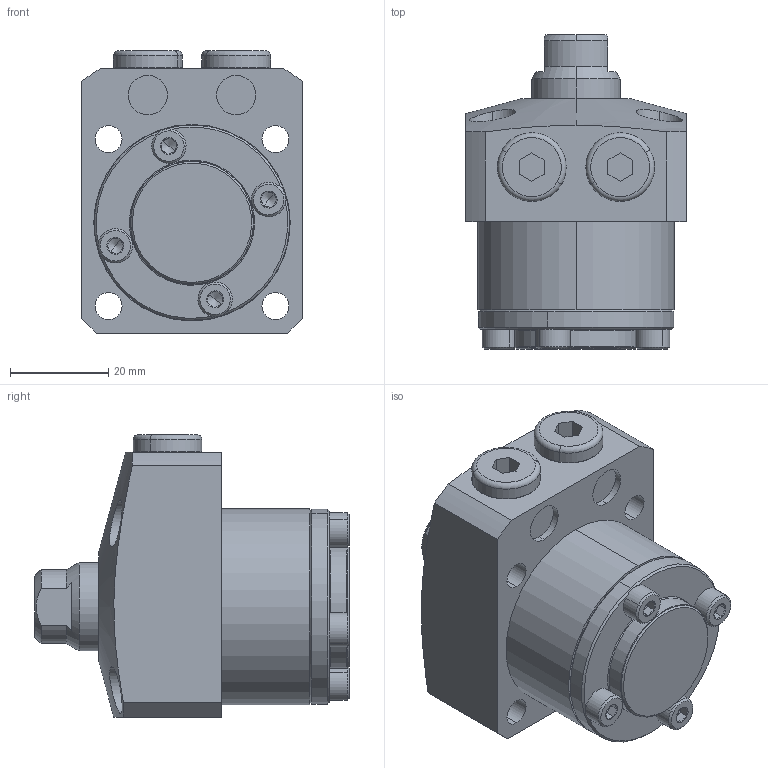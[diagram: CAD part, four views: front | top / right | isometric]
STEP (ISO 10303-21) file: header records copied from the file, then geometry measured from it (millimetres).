
FILE_DESCRIPTION (( 'STEP AP203' ), '1' );
FILE_NAME ('680400-CA-015.step', '2016-11-02T03:18:16', ( 'wxp' ), ( '' ), 'SwSTEP 2.0', 'SolidWorks 2011', '' );
FILE_SCHEMA (( 'CONFIG_CONTROL_DESIGN' ));
Length unit declared in the file: millimetre
Products named in the file (6): 葩璃 680400-15-2^680400-CA-015; 葩璃 680400-15-1^680400-CA-015; 680400-CA-015; 葩璃 68036-15-5^680400-CA-015; 葩璃 680400-15-4^680400-CA-015; 葩璃 680400-15-3^680400-CA-015
Assembly tree (9 placements, depth 2):
  680400-CA-015
    葩璃 68036-15-5^680400-CA-015  x2
    葩璃 680400-15-4^680400-CA-015  x4
    葩璃 680400-15-3^680400-CA-015
    葩璃 680400-15-2^680400-CA-015
    葩璃 680400-15-1^680400-CA-015
Bounding box: 45 x 64 x 57.5 mm (x, y, z)
Volume: 82775.6 mm3; surface area: 22557.2 mm2
Topology: 9 solids, 9 shells, 279 faces, 555 edges, 312 vertices
Faces by surface type: plane 110, cylinder 81, cone 72, torus 16
Entity records: 5453 total; most frequent: CARTESIAN_POINT 1148, DIRECTION 827, ORIENTED_EDGE 674, AXIS2_PLACEMENT_3D 346, EDGE_CURVE 337, VERTEX_POINT 205, EDGE_LOOP 194, CIRCLE 174
